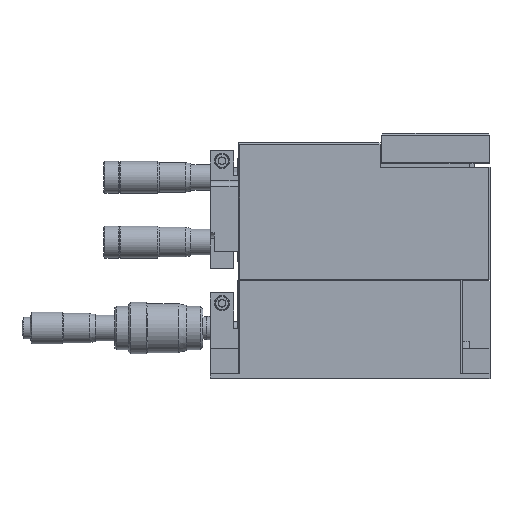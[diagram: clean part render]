
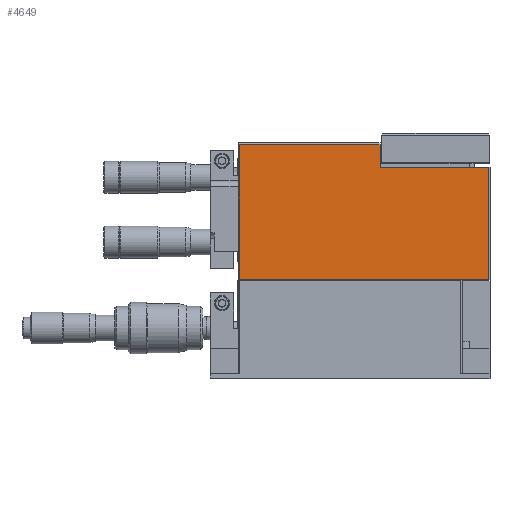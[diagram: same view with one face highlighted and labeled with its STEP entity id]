
A CAD part, top view. The second image highlights one B-rep face of the part: STEP entity #4649.
In plain terms, the highlighted planar face has unit normal (0, 0, 1).
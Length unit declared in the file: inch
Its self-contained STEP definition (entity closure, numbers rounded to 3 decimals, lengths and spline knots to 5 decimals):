
#1647=EDGE_CURVE('P3A-D-MM-HN-I[2]',#5430,#5431,#5432,.T.);
#2006=EDGE_CURVE('P3A-D-MM-HN-I[2]',#6031,#6032,#6033,.F.);
#2038=EDGE_CURVE('P3A-D-MM-HN-I[2]',#6031,#6085,#6086,.T.);
#2482=EDGE_CURVE('P3A-D-MM-HN-I[2]',#6032,#6705,#6770,.T.);
#2587=EDGE_CURVE('P3A-D-MM-HN-I[2]',#6085,#5431,#6936,.F.);
#2974=EDGE_CURVE('P3A-D-MM-HN-I[2]',#5430,#6705,#7489,.F.);
#4649=ADVANCED_FACE('P3A-D-MM-HN-I[2]',(#9731),#9732,.T.);
#5430=VERTEX_POINT('',#10689);
#5431=VERTEX_POINT('',#10690);
#5432=LINE('',#10691,#10692);
#6031=VERTEX_POINT('',#11563);
#6032=VERTEX_POINT('',#11564);
#6033=LINE('',#11565,#11566);
#6085=VERTEX_POINT('',#11646);
#6086=LINE('',#11647,#11648);
#6705=VERTEX_POINT('',#12566);
#6770=LINE('',#12654,#12655);
#6936=LINE('',#12909,#12910);
#7489=LINE('',#13769,#13770);
#9731=FACE_OUTER_BOUND('',#17239,.T.);
#9732=PLANE('',#17240);
#10689=CARTESIAN_POINT('',(-5.03,-4.1,0.875));
#10690=CARTESIAN_POINT('',(-1.02,-4.1,0.875));
#10691=CARTESIAN_POINT('',(-3.025,-4.1,0.875));
#10692=VECTOR('',#18793,1.0);
#11563=CARTESIAN_POINT('',(-2.77,-2.29,0.875));
#11564=CARTESIAN_POINT('',(-2.77,-1.93,0.875));
#11565=CARTESIAN_POINT('',(-2.77,-3.0075,0.875));
#11566=VECTOR('',#19352,1.0);
#11646=CARTESIAN_POINT('',(-1.02,-2.29,0.875));
#11647=CARTESIAN_POINT('',(-2.07125,-2.29,0.875));
#11648=VECTOR('',#19396,1.0);
#12566=CARTESIAN_POINT('',(-5.03,-1.93,0.875));
#12654=CARTESIAN_POINT('',(-3.64375,-1.93,0.875));
#12655=VECTOR('',#20069,1.0);
#12909=CARTESIAN_POINT('',(-1.02,-3.2425,0.875));
#12910=VECTOR('',#20255,1.0);
#13769=CARTESIAN_POINT('',(-5.03,-2.36616,0.875));
#13770=VECTOR('',#20854,1.0);
#17239=EDGE_LOOP('',(#23596,#23597,#23598,#23599,#23600,#23601));
#17240=AXIS2_PLACEMENT_3D('',#23602,#23603,#23604);
#18793=DIRECTION('',(1.0,0.0,0.0));
#19352=DIRECTION('',(0.0,-1.0,0.0));
#19396=DIRECTION('',(1.0,0.0,0.0));
#20069=DIRECTION('',(-1.0,0.0,0.0));
#20255=DIRECTION('',(0.0,1.0,0.0));
#20854=DIRECTION('',(0.0,-1.0,0.0));
#23596=ORIENTED_EDGE('',*,*,#2482,.T.);
#23597=ORIENTED_EDGE('',*,*,#2974,.F.);
#23598=ORIENTED_EDGE('',*,*,#1647,.T.);
#23599=ORIENTED_EDGE('',*,*,#2587,.F.);
#23600=ORIENTED_EDGE('',*,*,#2038,.F.);
#23601=ORIENTED_EDGE('',*,*,#2006,.T.);
#23602=CARTESIAN_POINT('',(-3.025,-3.0,0.875));
#23603=DIRECTION('',(0.0,0.0,1.0));
#23604=DIRECTION('',(0.0,-1.0,0.0));
